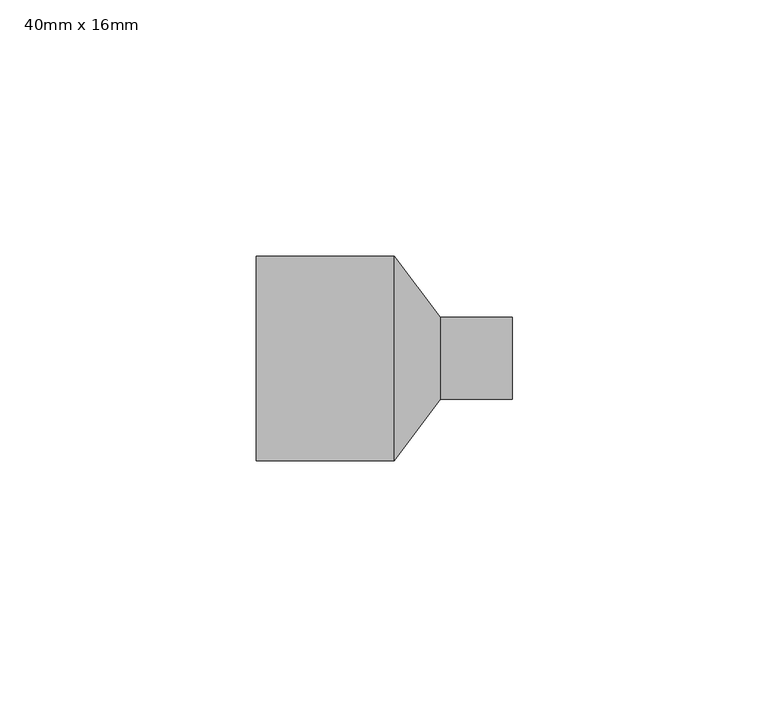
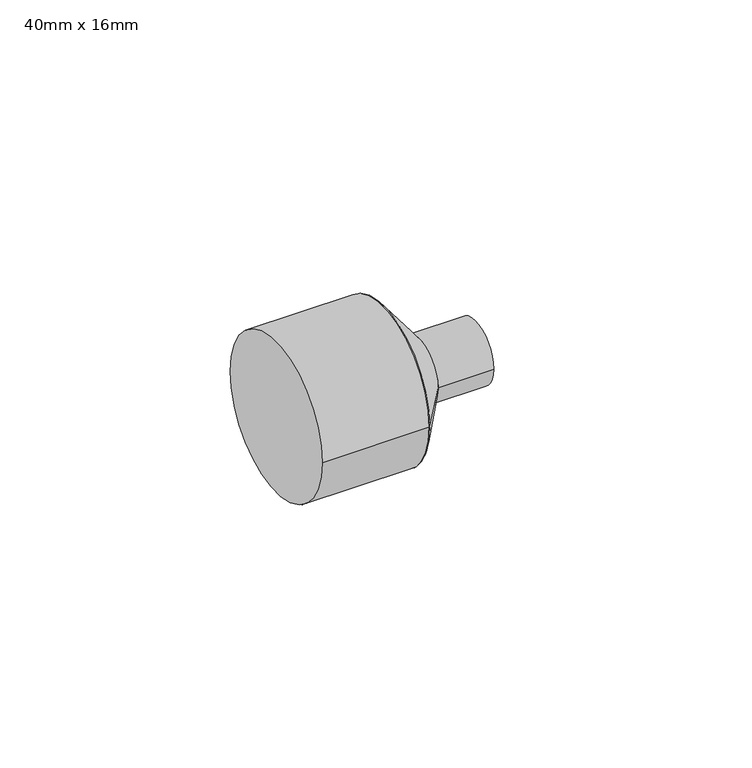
"""IFC4 building model written with IfcOpenShell, lengths in millimetres: pipe fitting geometry, PipeFitting_HTA_CPVC_ReducingBushesLongPattern : 40mm x 16mm."""

from ifc_helpers import new_model, si_unit, point, frame, origin, origin_2d, place, context, project, spatial, polyline, circle_curve, trimmed, segment, composite_curve, outline, extrude, source, transform, mapped, element, save
from ifc_brep_helpers import plane_surface, revolved_surface, advanced_brep


def pipe_fitting_40mm_x_16mm_e47acdd3(model_context):
    return source(origin(), model_context, "Body", "SolidModel", [
        advanced_brep(
        [(36.0, -8.0, 0.0), (36.0, 8.0, 0.0), (27.0, -20.0, 0.0), (27.0, 20.0, 0.0)],
        [
            (0, 1, circle_curve(frame((36.0, 0.0, 0.0), z_axis=(1.0, 0.0, 0.0), x_axis=(0.0, -1.0, 0.0)), 8.0)),
            (1, 0, circle_curve(frame((36.0, 0.0, 0.0), z_axis=(1.0, 0.0, 0.0), x_axis=(0.0, 1.0, 0.0)), 8.0)),
            (2, 3, circle_curve(frame((27.0, 0.0, 0.0), z_axis=(-1.0, 0.0, 0.0), x_axis=(0.0, 1.0, 0.0)), 20.0)),
            (3, 2, circle_curve(frame((27.0, 0.0, 0.0), z_axis=(-1.0, 0.0, 0.0), x_axis=(0.0, -1.0, 0.0)), 20.0)),
            (3, 1),
            (0, 2),
        ],
        [
            plane_surface(frame((36.0, 0.0, 0.0), z_axis=(1.0, 0.0, 0.0), x_axis=(0.0, 0.0, -1.0))),
            plane_surface(frame((27.0, 0.0, 0.0), z_axis=(-1.0, 0.0, 0.0), x_axis=(0.0, 0.0, -1.0))),
            revolved_surface(polyline([(36.0, -8.0, 0.0), (27.0, -20.0, 0.0)]), (42.0, 0.0, 0.0), (-1.0, 0.0, 0.0)),
            revolved_surface(polyline([(36.0, 8.0, 0.0), (27.0, 20.0, 0.0)]), (42.0, 0.0, 0.0), (-1.0, 0.0, 0.0)),
        ],
        [
            (0, [[1, 2]]),
            (1, [[3, 4]]),
            (2, [[-4, 5, -1, 6]]),
            (3, [[-3, -6, -2, -5]]),
        ],
    ),
        extrude(outline(composite_curve([segment(trimmed(circle_curve(origin_2d(), 8.0), [point((-8.0, 0.0))], [point((8.0, 0.0))], False, "CARTESIAN"), True, "CONTINUOUS"), segment(trimmed(circle_curve(origin_2d(), 8.0), [point((8.0, 0.0))], [point((-8.0, 0.0))], False, "CARTESIAN"), True, "CONTINUOUS")], self_intersect=False)), frame((36.0, 0.0, 0.0), z_axis=(1.0, 0.0, 0.0), x_axis=(0.0, 1.0, 0.0)), (0.0, 0.0, 1.0), 14.0),
        extrude(outline(composite_curve([segment(trimmed(circle_curve(origin_2d(), 20.0), [point((-20.0, 0.0))], [point((20.0, 0.0))], False, "CARTESIAN"), True, "CONTINUOUS"), segment(trimmed(circle_curve(origin_2d(), 20.0), [point((20.0, 0.0))], [point((-20.0, 0.0))], False, "CARTESIAN"), True, "CONTINUOUS")], self_intersect=False)), frame((0.0, 0.0, 0.0), z_axis=(1.0, 0.0, 0.0), x_axis=(0.0, 1.0, 0.0)), (0.0, 0.0, 1.0), 27.0),
    ])


if __name__ == "__main__":
    model = new_model("IFC4")
    model_context = context("Model", 3, world=origin())
    ifc_project = project(units=[si_unit("LENGTHUNIT", "METRE", prefix="MILLI")], contexts=[model_context])
    site = spatial("IfcSite", under=ifc_project)
    building = spatial("IfcBuilding", under=site)
    placement = place(None, origin())
    pipe_fitting_40mm_x_16mm_shape = pipe_fitting_40mm_x_16mm_e47acdd3(model_context)
    element("IfcPipeFitting", 1, ObjectType="PipeFitting_HTA_CPVC_ReducingBushesLongPattern : 40mm x 16mm", at=placement, inside=building, context=model_context, shape_type="MappedRepresentation", body=[
        mapped(pipe_fitting_40mm_x_16mm_shape, transform((0.0, 0.0, 0.0), x_axis=(1.0, 0.0, 0.0), y_axis=(0.0, 1.0, 0.0), z_axis=(0.0, 0.0, 1.0))),
    ])
    save(model, "model.ifc")
